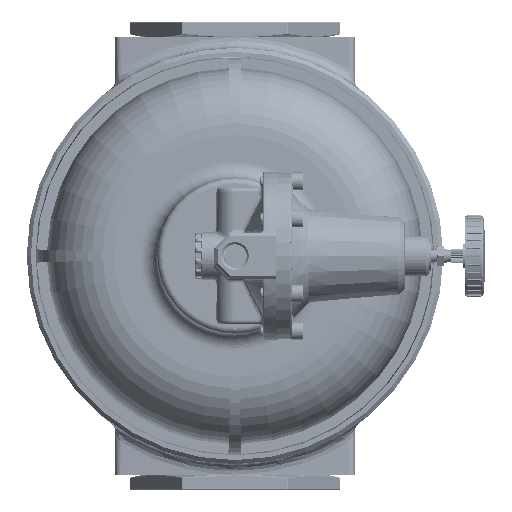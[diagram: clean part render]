
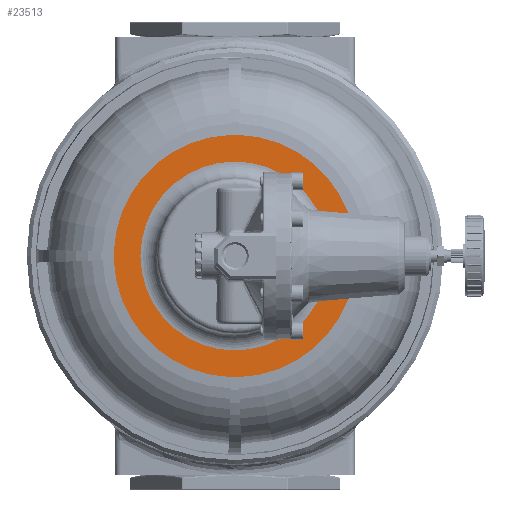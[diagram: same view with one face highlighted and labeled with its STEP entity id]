
A CAD part, front view. The second image highlights one B-rep face of the part: STEP entity #23513.
In plain terms, the highlighted planar face has unit normal (0, -1, 0).
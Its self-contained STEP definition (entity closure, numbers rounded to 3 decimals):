
#1785=FACE_BOUND('',#5581,.T.);
#2174=PLANE('',#25593);
#4265=FACE_OUTER_BOUND('',#5580,.T.);
#5580=EDGE_LOOP('',(#21771,#21772,#21773,#21774,#21775,#21776,#21777,#21778));
#5581=EDGE_LOOP('',(#21779));
#9027=CIRCLE('',#25591,46.104);
#9029=CIRCLE('',#25594,59.132);
#9030=CIRCLE('',#25595,59.132);
#9031=CIRCLE('',#25596,59.132);
#9032=CIRCLE('',#25597,59.132);
#9033=CIRCLE('',#25598,59.132);
#9034=CIRCLE('',#25599,59.132);
#9035=CIRCLE('',#25600,59.132);
#9036=CIRCLE('',#25601,59.132);
#11345=VERTEX_POINT('',#125971);
#11346=VERTEX_POINT('',#125975);
#11347=VERTEX_POINT('',#125976);
#11348=VERTEX_POINT('',#125978);
#11349=VERTEX_POINT('',#125980);
#11350=VERTEX_POINT('',#125982);
#11351=VERTEX_POINT('',#125984);
#11352=VERTEX_POINT('',#125986);
#11353=VERTEX_POINT('',#125988);
#14824=EDGE_CURVE('',#11345,#11345,#9027,.T.);
#14826=EDGE_CURVE('',#11346,#11347,#9029,.T.);
#14827=EDGE_CURVE('',#11348,#11346,#9030,.T.);
#14828=EDGE_CURVE('',#11349,#11348,#9031,.T.);
#14829=EDGE_CURVE('',#11350,#11349,#9032,.T.);
#14830=EDGE_CURVE('',#11351,#11350,#9033,.T.);
#14831=EDGE_CURVE('',#11352,#11351,#9034,.T.);
#14832=EDGE_CURVE('',#11353,#11352,#9035,.T.);
#14833=EDGE_CURVE('',#11347,#11353,#9036,.T.);
#21771=ORIENTED_EDGE('',*,*,#14826,.F.);
#21772=ORIENTED_EDGE('',*,*,#14827,.F.);
#21773=ORIENTED_EDGE('',*,*,#14828,.F.);
#21774=ORIENTED_EDGE('',*,*,#14829,.F.);
#21775=ORIENTED_EDGE('',*,*,#14830,.F.);
#21776=ORIENTED_EDGE('',*,*,#14831,.F.);
#21777=ORIENTED_EDGE('',*,*,#14832,.F.);
#21778=ORIENTED_EDGE('',*,*,#14833,.F.);
#21779=ORIENTED_EDGE('',*,*,#14824,.F.);
#23513=ADVANCED_FACE('',(#4265,#1785),#2174,.T.);
#25591=AXIS2_PLACEMENT_3D('',#125972,#30902,#30903);
#25593=AXIS2_PLACEMENT_3D('',#125974,#30906,#30907);
#25594=AXIS2_PLACEMENT_3D('',#125977,#30908,#30909);
#25595=AXIS2_PLACEMENT_3D('',#125979,#30910,#30911);
#25596=AXIS2_PLACEMENT_3D('',#125981,#30912,#30913);
#25597=AXIS2_PLACEMENT_3D('',#125983,#30914,#30915);
#25598=AXIS2_PLACEMENT_3D('',#125985,#30916,#30917);
#25599=AXIS2_PLACEMENT_3D('',#125987,#30918,#30919);
#25600=AXIS2_PLACEMENT_3D('',#125989,#30920,#30921);
#25601=AXIS2_PLACEMENT_3D('',#125990,#30922,#30923);
#30902=DIRECTION('center_axis',(0.,-1.,0.));
#30903=DIRECTION('ref_axis',(1.,0.,0.));
#30906=DIRECTION('center_axis',(0.,-1.,0.));
#30907=DIRECTION('ref_axis',(0.,0.,-1.));
#30908=DIRECTION('center_axis',(0.,1.,0.));
#30909=DIRECTION('ref_axis',(0.,0.,1.));
#30910=DIRECTION('center_axis',(0.,1.,0.));
#30911=DIRECTION('ref_axis',(1.,0.,0.));
#30912=DIRECTION('center_axis',(0.,1.,0.));
#30913=DIRECTION('ref_axis',(1.,0.,0.));
#30914=DIRECTION('center_axis',(0.,1.,0.));
#30915=DIRECTION('ref_axis',(1.,0.,0.));
#30916=DIRECTION('center_axis',(0.,1.,0.));
#30917=DIRECTION('ref_axis',(1.,0.,0.));
#30918=DIRECTION('center_axis',(0.,1.,0.));
#30919=DIRECTION('ref_axis',(1.,0.,0.));
#30920=DIRECTION('center_axis',(0.,1.,0.));
#30921=DIRECTION('ref_axis',(1.,0.,0.));
#30922=DIRECTION('center_axis',(0.,1.,0.));
#30923=DIRECTION('ref_axis',(1.,0.,0.));
#125971=CARTESIAN_POINT('',(0.,-172.508,-46.104));
#125972=CARTESIAN_POINT('Origin',(0.,-172.508,0.));
#125974=CARTESIAN_POINT('Origin',(-59.132,-172.508,0.));
#125975=CARTESIAN_POINT('',(-59.099,-172.508,-1.961));
#125976=CARTESIAN_POINT('',(-59.099,-172.508,1.961));
#125977=CARTESIAN_POINT('Origin',(0.,-172.508,0.));
#125978=CARTESIAN_POINT('',(-1.961,-172.508,-59.099));
#125979=CARTESIAN_POINT('Origin',(0.,-172.508,0.));
#125980=CARTESIAN_POINT('',(1.961,-172.508,-59.099));
#125981=CARTESIAN_POINT('Origin',(0.,-172.508,0.));
#125982=CARTESIAN_POINT('',(59.099,-172.508,-1.961));
#125983=CARTESIAN_POINT('Origin',(0.,-172.508,0.));
#125984=CARTESIAN_POINT('',(59.099,-172.508,1.961));
#125985=CARTESIAN_POINT('Origin',(0.,-172.508,0.));
#125986=CARTESIAN_POINT('',(1.961,-172.508,59.099));
#125987=CARTESIAN_POINT('Origin',(0.,-172.508,0.));
#125988=CARTESIAN_POINT('',(-1.961,-172.508,59.099));
#125989=CARTESIAN_POINT('Origin',(0.,-172.508,0.));
#125990=CARTESIAN_POINT('Origin',(0.,-172.508,0.));
